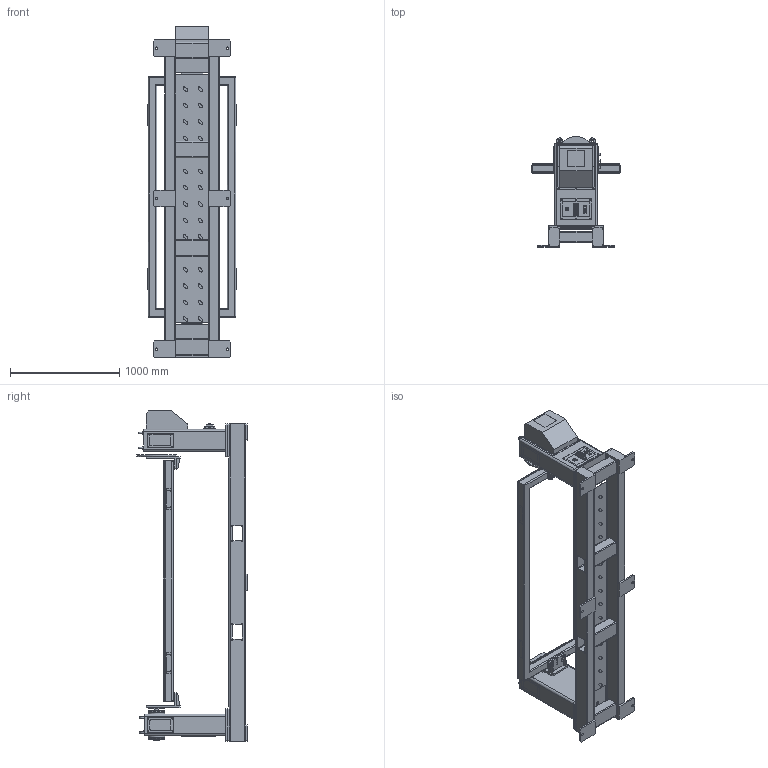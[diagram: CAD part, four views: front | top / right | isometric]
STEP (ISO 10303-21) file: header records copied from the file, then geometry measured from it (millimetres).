
FILE_DESCRIPTION (( 'STEP AP203' ), '1' );
FILE_NAME ('AUT-SWP-ZW-500.STEP', '2020-05-07T03:42:01', ( 'Microsoft' ), ( 'Microsoft' ), 'SwSTEP 2.0', 'SolidWorks 2016', '' );
FILE_SCHEMA (( 'CONFIG_CONTROL_DESIGN' ));
Length unit declared in the file: millimetre
Products named in the file (1): AUT-SWP-ZW-500
Bounding box: 804 x 1009 x 3021.5 mm (x, y, z)
Surface area: 12219801.8 mm2 (no closed solid volume)
Topology: 0 solids, 76 shells, 755 faces, 2634 edges, 1938 vertices
Faces by surface type: plane 386, cylinder 213, bspline 111, cone 32, torus 13
Full cylindrical faces by diameter (mm): 2.175 x1, 3.2 x1, 4.2 x12, 4.4 x2, 6.5 x14, 6.6 x2, 9 x4, 10 x2, 11 x4, 12 x36, 13 x12, 13.5 x8, 20 x1, 22 x9, 25 x4, 30 x5, 40 x1, 42 x1, 50 x1, 150 x7, 360 x1
Entity records: 31923 total; most frequent: CARTESIAN_POINT 10742, DIRECTION 4110, ORIENTED_EDGE 3614, EDGE_CURVE 2335, VERTEX_POINT 1846, EDGE_LOOP 1405, AXIS2_PLACEMENT_3D 1390, LINE 1330
